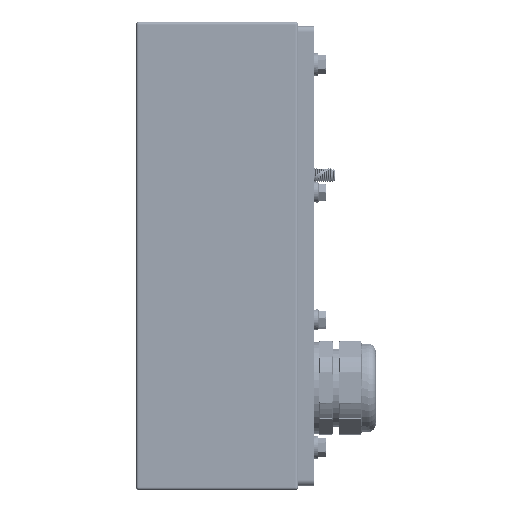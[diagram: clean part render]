
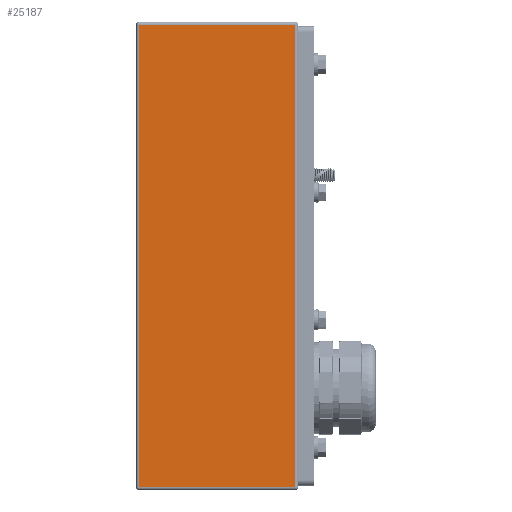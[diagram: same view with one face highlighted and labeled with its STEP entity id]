
A CAD part, left-side view. The second image highlights one B-rep face of the part: STEP entity #25187.
In plain terms, the highlighted planar face has unit normal (-1, 0, 0).
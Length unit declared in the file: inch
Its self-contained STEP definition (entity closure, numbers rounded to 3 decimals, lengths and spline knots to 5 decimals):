
#2137 = VECTOR ( 'NONE', #20379, 39.37008 ) ;
#4204 = VERTEX_POINT ( 'NONE', #40995 ) ;
#6600 = FACE_OUTER_BOUND ( 'NONE', #33970, .T. ) ;
#8890 = VERTEX_POINT ( 'NONE', #29877 ) ;
#10532 = DIRECTION ( 'NONE',  ( 0., 1., 0. ) ) ;
#11675 = CARTESIAN_POINT ( 'NONE',  ( -1.9, 0.06, -0.06 ) ) ;
#12101 = AXIS2_PLACEMENT_3D ( 'NONE', #42738, #40047, #39578 ) ;
#14194 = LINE ( 'NONE', #47382, #15233 ) ;
#15233 = VECTOR ( 'NONE', #10532, 39.37008 ) ;
#16937 = ORIENTED_EDGE ( 'NONE', *, *, #43642, .T. ) ;
#17787 = VECTOR ( 'NONE', #46850, 39.37008 ) ;
#19708 = EDGE_CURVE ( 'NONE', #8890, #33474, #24834, .T. ) ;
#20379 = DIRECTION ( 'NONE',  ( 0., 0., -1. ) ) ;
#24001 = CARTESIAN_POINT ( 'NONE',  ( -1.9, 3.74, -11. ) ) ;
#24834 = LINE ( 'NONE', #39623, #43579 ) ;
#25187 = ADVANCED_FACE ( 'NONE', ( #6600 ), #25251, .F. ) ;
#25251 = PLANE ( 'NONE',  #12101 ) ;
#25595 = ORIENTED_EDGE ( 'NONE', *, *, #19708, .T. ) ;
#25858 = VERTEX_POINT ( 'NONE', #33189 ) ;
#29877 = CARTESIAN_POINT ( 'NONE',  ( -1.9, 0.06, -10.94 ) ) ;
#32075 = LINE ( 'NONE', #47085, #17787 ) ;
#33189 = CARTESIAN_POINT ( 'NONE',  ( -1.9, 3.74, -10.94 ) ) ;
#33474 = VERTEX_POINT ( 'NONE', #11675 ) ;
#33970 = EDGE_LOOP ( 'NONE', ( #40377, #41747, #25595, #16937 ) ) ;
#39578 = DIRECTION ( 'NONE',  ( 0., 0., -1. ) ) ;
#39623 = CARTESIAN_POINT ( 'NONE',  ( -1.9, 0.06, -11. ) ) ;
#40047 = DIRECTION ( 'NONE',  ( 1., 0., 0. ) ) ;
#40092 = DIRECTION ( 'NONE',  ( 0., 0., 1. ) ) ;
#40377 = ORIENTED_EDGE ( 'NONE', *, *, #44551, .T. ) ;
#40995 = CARTESIAN_POINT ( 'NONE',  ( -1.9, 3.74, -0.06 ) ) ;
#41747 = ORIENTED_EDGE ( 'NONE', *, *, #46710, .T. ) ;
#42738 = CARTESIAN_POINT ( 'NONE',  ( -1.9, 3.8, -11. ) ) ;
#43579 = VECTOR ( 'NONE', #40092, 39.37008 ) ;
#43642 = EDGE_CURVE ( 'NONE', #33474, #4204, #14194, .T. ) ;
#44551 = EDGE_CURVE ( 'NONE', #4204, #25858, #46050, .T. ) ;
#46050 = LINE ( 'NONE', #24001, #2137 ) ;
#46710 = EDGE_CURVE ( 'NONE', #25858, #8890, #32075, .T. ) ;
#46850 = DIRECTION ( 'NONE',  ( 0., -1., 0. ) ) ;
#47085 = CARTESIAN_POINT ( 'NONE',  ( -1.9, 3.8, -10.94 ) ) ;
#47382 = CARTESIAN_POINT ( 'NONE',  ( -1.9, 3.8, -0.06 ) ) ;
